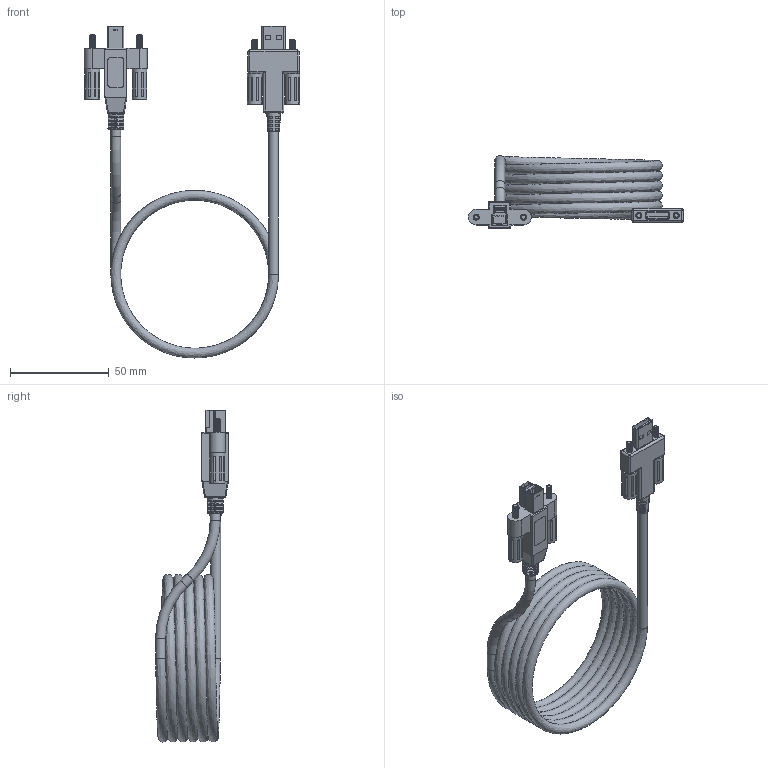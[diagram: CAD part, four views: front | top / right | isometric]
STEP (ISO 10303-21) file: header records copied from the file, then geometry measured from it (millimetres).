
FILE_DESCRIPTION(/* description */ (''),/* implementation_level */ '2;1');
FILE_NAME(/* name */ 'C:/Users/Leo/Desktop/AA CoolGear CADs/ABMSL-USB3-5FT/ABMSL-USB3-5FT Mode3D LPV1.step',/* time_stamp */ '2021-10-08T09:44:08-04:00',/* author */ (''),/* organization */ (''),/* preprocessor_version */ 'ST-DEVELOPER v18.1',/* originating_system */ 'Autodesk Translation Framework v10.10.0.1391',/* authorisation */ '');
FILE_SCHEMA (('AUTOMOTIVE_DESIGN { 1 0 10303 214 3 1 1 }'));
Products named in the file (1): FusionComponent
Bounding box: 109.25 x 37 x 168.41 mm (x, y, z)
Volume: 43760.9 mm3; surface area: 35057.4 mm2
Topology: 11 solids, 15 shells, 1236 faces, 3040 edges, 1936 vertices
Faces by surface type: plane 675, cylinder 409, bspline 102, torus 37, sphere 12, cone 1
Full cylindrical faces by diameter (mm): 2 x32, 3 x8, 5 x4, 7.51 x4, 8 x1
Entity records: 58947 total; most frequent: CARTESIAN_POINT 30837, ORIENTED_EDGE 6080, DIRECTION 5544, EDGE_CURVE 3040, AXIS2_PLACEMENT_3D 1970, VERTEX_POINT 1936, LINE 1604, VECTOR 1604
